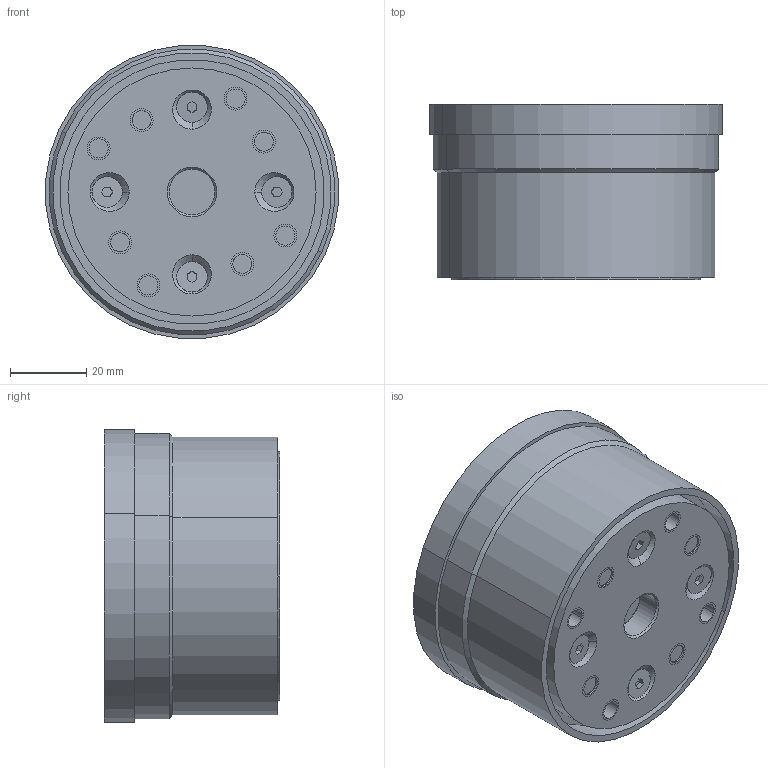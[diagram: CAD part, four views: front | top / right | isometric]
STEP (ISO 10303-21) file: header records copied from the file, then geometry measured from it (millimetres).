
FILE_DESCRIPTION((''),'2;1');
FILE_NAME('BS6-070-065','2018-02-27T',('CSW'),(''),'CREO PARAMETRIC BY PTC INC, 2016260','CREO PARAMETRIC BY PTC INC, 2016260','');
FILE_SCHEMA(('AUTOMOTIVE_DESIGN { 1 0 10303 214 1 1 1 1 }'));
Length unit declared in the file: millimetre
Products named in the file (1): BS6-070-065
Bounding box: 76.71 x 46 x 76.71 mm (x, y, z)
Volume: 191543 mm3; surface area: 29646.6 mm2
Topology: 1 solids, 53 shells, 525 faces, 1160 edges, 722 vertices
Faces by surface type: cylinder 218, plane 211, cone 80, torus 16
Entity records: 14783 total; most frequent: CARTESIAN_POINT 2753, DIRECTION 2710, ORIENTED_EDGE 2160, EDGE_CURVE 1144, AXIS2_PLACEMENT_3D 1072, VERTEX_POINT 722, EDGE_LOOP 610, VECTOR 566
